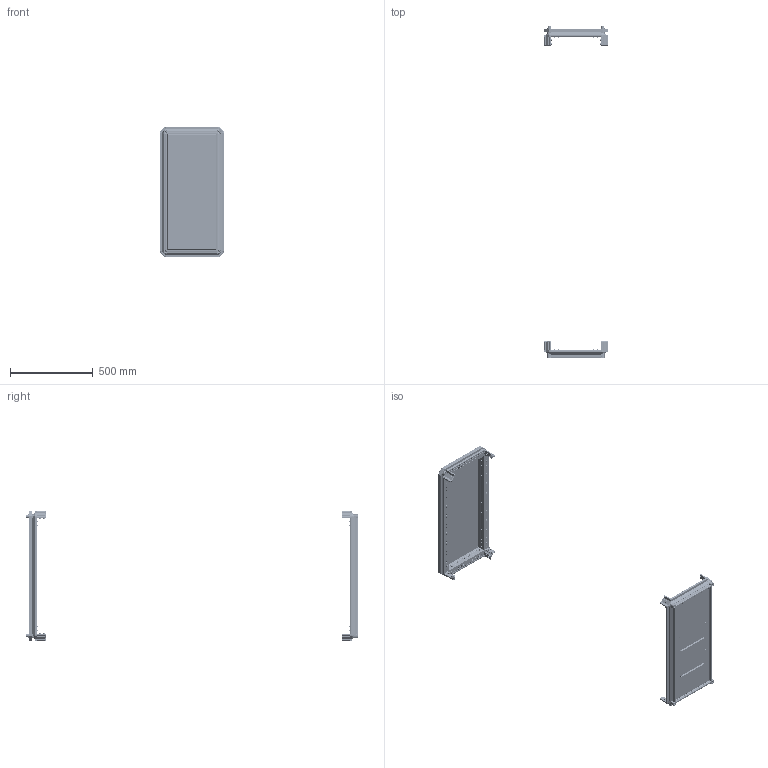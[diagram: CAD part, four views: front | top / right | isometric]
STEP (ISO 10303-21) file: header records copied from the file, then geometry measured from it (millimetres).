
FILE_DESCRIPTION (( 'STEP AP203' ), '1' );
FILE_NAME ('MA1.101.040820.00.00 AleSta-RB48 Êîìïëåêò êðûøà è îñíîâàíèå.STEP', '2025-02-19T13:56:40', ( '' ), ( '' ), 'SwSTEP 2.0', 'SolidWorks 2021', '' );
FILE_SCHEMA (( 'CONFIG_CONTROL_DESIGN' ));
Length unit declared in the file: millimetre
Products named in the file (19): MA1.101.060620.20.01 Ïîëîòíî íèæíåé ïàíåëè 600õ600_400å800; MA1.101.060620.00.02 Ïðîôèëü ïîïåðå÷íûé ñâàðíîé_00 L=298 (˜=400); MA1.101.040820.00.00 AleSta-RB48 Êîìïëåêò êðûøà è îñíîâàíèå; ﾘ琺矜 65ﾃ 019 ﾃﾎﾑﾒ 6402-70_12; MA1.101.060620.20.02 Çàêðûòèå íèæíåé ïàíåëè 600õ600_400x800; Øàéáà ñòîïîðíàÿ ñ íàðóæíûìè çóáöàìè SCHNORR, òèï VS öèíêîâûå õëîïüÿ Ì6 O6,4 ART 88121_Œ6; MA1.101.060620.10.01 Ïîëîòíî êðûøè 600õ600_400å800; 7380-2 ISO Âèíòû ñ ïîëóêðóãëîé ãîëîâêîé ñ ôëàíöåì ñ âíóòðåííèì øåñòèãðàííèêîì Ì4õ10; Âèíò ñ âí. øåñòèãðàííèêîì M12 DIN912_•30; MA1.101.060620.10.00 Êðûøà 600x600_400å800; Âèíò_ðåçüáîâûäàâëèâàþùèé_Ì5õ12_DIN 7500E_Œ5å12; MA1.101.060620.00.02 Ïðîôèëü ïîïåðå÷íûé ñâàðíîé_02 L=698 (˜=800) ; Óïëîòíèòåëü ïàíåëè íèæíåé_400å800; MA1.100.060620.00.01 Ñîåäèíèòåëü óãëîâîé_00; ﾇﾀﾊﾋﾅﾏﾊﾀ ﾃﾀﾅﾗﾍﾀﾟ ﾘﾅﾑﾒﾈﾃﾐﾀﾍﾍﾀﾟ ﾑ ﾓﾌﾅﾍﾜﾘﾅﾍﾍﾛﾌ ﾁﾎﾐﾒﾎﾌ M4 X 11 (0.5-2.5 ﾌﾌ) HEX U-S ﾖﾈﾍﾊ; ﾘ琺矜 01.019 ﾃﾎﾑﾒ11371-78_12; MA1.101.060620.20.00 Íèæíÿÿ ïàíåëü 600õ600_400å800; Âèíò ðåçüáîâûäàâëèâàþùèé Ì6õ12 DIN 7500E_Œ6å10; Øïèëüêà Ì6õ12_˜¯¨«ìª  Œ6å12
Assembly tree (215 placements, depth 3):
  MA1.101.040820.00.00 AleSta-RB48 Êîìïëåêò êðûøà è îñíîâàíèå
    MA1.101.060620.00.02 Ïðîôèëü ïîïåðå÷íûé ñâàðíîé_00 L=298 (˜=400)  x4
    MA1.101.060620.00.02 Ïðîôèëü ïîïåðå÷íûé ñâàðíîé_02 L=698 (˜=800)   x4
    MA1.101.060620.10.00 Êðûøà 600x600_400å800
      MA1.101.060620.10.01 Ïîëîòíî êðûøè 600õ600_400å800
      Øïèëüêà Ì6õ12_˜¯¨«ìª  Œ6å12  x4
      Óïëîòíèòåëü ïàíåëè íèæíåé_400å800
    MA1.101.060620.20.00 Íèæíÿÿ ïàíåëü 600õ600_400å800
      MA1.101.060620.20.01 Ïîëîòíî íèæíåé ïàíåëè 600õ600_400å800
      ﾇﾀﾊﾋﾅﾏﾊﾀ ﾃﾀﾅﾗﾍﾀﾟ ﾘﾅﾑﾒﾈﾃﾐﾀﾍﾍﾀﾟ ﾑ ﾓﾌﾅﾍﾜﾘﾅﾍﾍﾛﾌ ﾁﾎﾐﾒﾎﾌ M4 X 11 (0.5-2.5 ﾌﾌ) HEX U-S ﾖﾈﾍﾊ  x4
      MA1.101.060620.20.02 Çàêðûòèå íèæíåé ïàíåëè 600õ600_400x800  x2
      7380-2 ISO Âèíòû ñ ïîëóêðóãëîé ãîëîâêîé ñ ôëàíöåì ñ âíóòðåííèì øåñòèãðàííèêîì Ì4õ10  x4
    Âèíò_ðåçüáîâûäàâëèâàþùèé_Ì5õ12_DIN 7500E_Œ5å12  x8
    MA1.100.060620.00.01 Ñîåäèíèòåëü óãëîâîé_00  x8
    Âèíò ñ âí. øåñòèãðàííèêîì M12 DIN912_•30  x4
    Âèíò ðåçüáîâûäàâëèâàþùèé Ì6õ12 DIN 7500E_Œ6å10  x80
    ﾘ琺矜 01.019 ﾃﾎﾑﾒ11371-78_12  x4
    ﾘ琺矜 65ﾃ 019 ﾃﾎﾑﾒ 6402-70_12  x4
    Øàéáà ñòîïîðíàÿ ñ íàðóæíûìè çóáöàìè SCHNORR, òèï VS öèíêîâûå õëîïüÿ Ì6 O6,4 ART 88121_Œ6  x80
Bounding box: 392 x 2010.9 x 792 mm (x, y, z)
Volume: 3052931.3 mm3; surface area: 3003793.1 mm2
Topology: 213 solids, 213 shells, 11814 faces, 30568 edges, 19184 vertices
Faces by surface type: plane 8670, cylinder 2328, cone 520, bspline 248, torus 48
Entity records: 61416 total; most frequent: CARTESIAN_POINT 12763, DIRECTION 8514, ORIENTED_EDGE 8382, EDGE_CURVE 4191, LINE 3106, VECTOR 3106, AXIS2_PLACEMENT_3D 2704, VERTEX_POINT 2551
